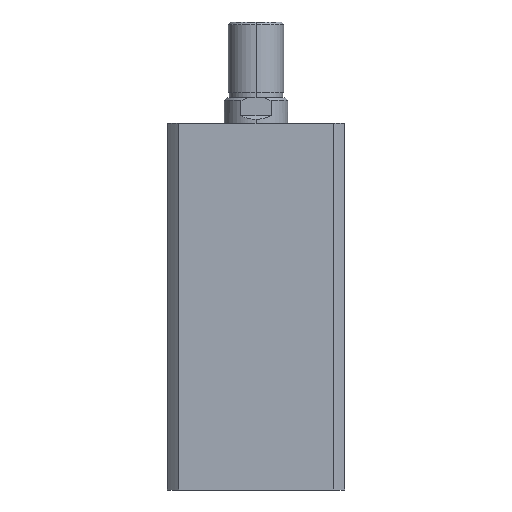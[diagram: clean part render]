
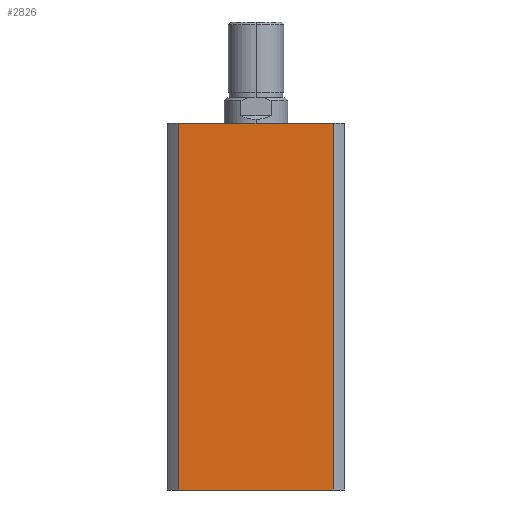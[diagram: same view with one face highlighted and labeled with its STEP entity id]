
A CAD part, left-side view. The second image highlights one B-rep face of the part: STEP entity #2826.
In plain terms, the highlighted planar face has unit normal (-1, 0, 0).
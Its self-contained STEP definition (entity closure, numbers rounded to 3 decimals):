
#701 = CARTESIAN_POINT ( 'NONE',  ( -35., 30.615, 0. ) ) ;
#729 = CARTESIAN_POINT ( 'NONE',  ( -35., -30.615, 0. ) ) ;
#871 = EDGE_LOOP ( 'NONE', ( #3152, #3153, #3154, #3155 ) ) ;
#1246 = LINE ( 'NONE', #4126, #1252 ) ;
#1250 = LINE ( 'NONE', #4125, #1256 ) ;
#1251 = LINE ( 'NONE', #4131, #1254 ) ;
#1252 = VECTOR ( 'NONE', #4122, 1000. ) ;
#1254 = VECTOR ( 'NONE', #4133, 1000. ) ;
#1256 = VECTOR ( 'NONE', #4134, 1000. ) ;
#1296 = LINE ( 'NONE', #4282, #1298 ) ;
#1298 = VECTOR ( 'NONE', #4281, 1000. ) ;
#1462 = FACE_OUTER_BOUND ( 'NONE', #871, .T. ) ;
#2014 = EDGE_CURVE ( 'NONE', #5126, #5050, #1246, .T. ) ;
#2015 = EDGE_CURVE ( 'NONE', #5021, #5050, #1251, .T. ) ;
#2016 = EDGE_CURVE ( 'NONE', #5119, #5021, #1250, .T. ) ;
#2049 = EDGE_CURVE ( 'NONE', #5119, #5126, #1296, .T. ) ;
#2351 = AXIS2_PLACEMENT_3D ( 'NONE', #4758, #4767, #4768 ) ;
#2649 = CARTESIAN_POINT ( 'NONE',  ( -35., 30.615, 145. ) ) ;
#2656 = CARTESIAN_POINT ( 'NONE',  ( -35., -30.615, 145. ) ) ;
#2826 = ADVANCED_FACE ( 'NONE', ( #1462 ), #4765, .F. ) ;
#3152 = ORIENTED_EDGE ( 'NONE', *, *, #2015, .T. ) ;
#3153 = ORIENTED_EDGE ( 'NONE', *, *, #2014, .F. ) ;
#3154 = ORIENTED_EDGE ( 'NONE', *, *, #2049, .F. ) ;
#3155 = ORIENTED_EDGE ( 'NONE', *, *, #2016, .T. ) ;
#4122 = DIRECTION ( 'NONE',  ( 0., 0., -1. ) ) ;
#4125 = CARTESIAN_POINT ( 'NONE',  ( -35., 30.615, 145. ) ) ;
#4126 = CARTESIAN_POINT ( 'NONE',  ( -35., -30.615, 145. ) ) ;
#4131 = CARTESIAN_POINT ( 'NONE',  ( -35., 0., 0. ) ) ;
#4133 = DIRECTION ( 'NONE',  ( 0., -1., 0. ) ) ;
#4134 = DIRECTION ( 'NONE',  ( 0., 0., -1. ) ) ;
#4281 = DIRECTION ( 'NONE',  ( 0., -1., 0. ) ) ;
#4282 = CARTESIAN_POINT ( 'NONE',  ( -35., 0., 145. ) ) ;
#4758 = CARTESIAN_POINT ( 'NONE',  ( -35., 0., 145. ) ) ;
#4765 = PLANE ( 'NONE',  #2351 ) ;
#4767 = DIRECTION ( 'NONE',  ( 1., 0., 0. ) ) ;
#4768 = DIRECTION ( 'NONE',  ( 0., 1., 0. ) ) ;
#5021 = VERTEX_POINT ( 'NONE', #701 ) ;
#5050 = VERTEX_POINT ( 'NONE', #729 ) ;
#5119 = VERTEX_POINT ( 'NONE', #2649 ) ;
#5126 = VERTEX_POINT ( 'NONE', #2656 ) ;
